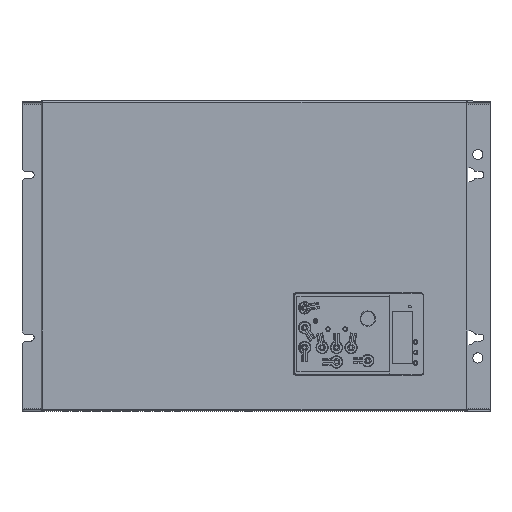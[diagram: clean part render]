
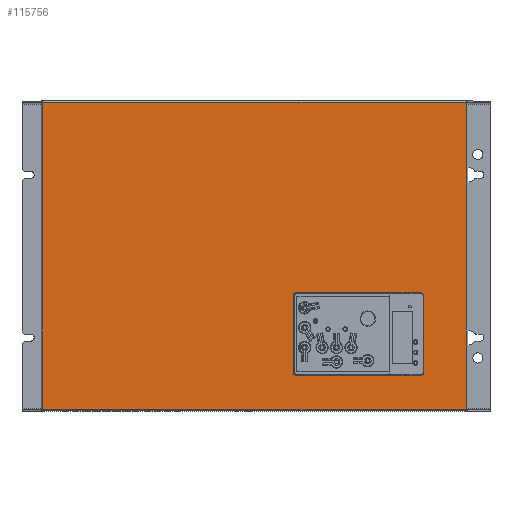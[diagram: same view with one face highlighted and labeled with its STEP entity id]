
A CAD part, top view. The second image highlights one B-rep face of the part: STEP entity #115756.
In plain terms, the highlighted planar face has unit normal (0, 0, 1).
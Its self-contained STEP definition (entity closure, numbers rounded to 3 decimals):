
#113492=DIRECTION('',(1.,0.,0.));
#113493=VECTOR('',#113492,301.6);
#113494=CARTESIAN_POINT('',(-150.8,208.,1.2));
#113495=LINE('',#113494,#113493);
#113507=CARTESIAN_POINT('',(-150.8,208.,1.2));
#113512=DIRECTION('',(-1.,0.,0.));
#113513=VECTOR('',#113512,76.);
#113514=CARTESIAN_POINT('',(115.,38.2,1.2));
#113515=LINE('',#113514,#113513);
#113519=DIRECTION('',(0.,-1.,0.));
#113520=VECTOR('',#113519,123.);
#113521=CARTESIAN_POINT('',(117.5,163.7,1.2));
#113522=LINE('',#113521,#113520);
#113526=DIRECTION('',(1.,0.,0.));
#113527=VECTOR('',#113526,76.);
#113528=CARTESIAN_POINT('',(39.,166.2,1.2));
#113529=LINE('',#113528,#113527);
#113533=DIRECTION('',(0.,1.,0.));
#113534=VECTOR('',#113533,123.);
#113535=CARTESIAN_POINT('',(36.5,40.7,1.2));
#113536=LINE('',#113535,#113534);
#113553=DIRECTION('',(-1.,0.,0.));
#113554=VECTOR('',#113553,301.6);
#113555=CARTESIAN_POINT('',(150.8,-208.,1.2));
#113556=LINE('',#113555,#113554);
#113964=DIRECTION('',(0.,-1.,0.));
#113965=VECTOR('',#113964,416.);
#113966=CARTESIAN_POINT('',(150.8,208.,1.2));
#113967=LINE('',#113966,#113965);
#114165=DIRECTION('',(0.,1.,0.));
#114166=VECTOR('',#114165,416.);
#114167=CARTESIAN_POINT('',(-150.8,-208.,1.2));
#114168=LINE('',#114167,#114166);
#114326=CARTESIAN_POINT('',(115.,40.7,1.2));
#114327=DIRECTION('',(0.,0.,-1.));
#114328=DIRECTION('',(1.,0.,0.));
#114329=AXIS2_PLACEMENT_3D('',#114326,#114327,#114328);
#114356=CARTESIAN_POINT('',(115.,163.7,1.2));
#114357=DIRECTION('',(0.,0.,-1.));
#114358=DIRECTION('',(0.,1.,0.));
#114359=AXIS2_PLACEMENT_3D('',#114356,#114357,#114358);
#114386=CARTESIAN_POINT('',(39.,163.7,1.2));
#114387=DIRECTION('',(0.,0.,-1.));
#114388=DIRECTION('',(-1.,0.,0.));
#114389=AXIS2_PLACEMENT_3D('',#114386,#114387,#114388);
#114416=CARTESIAN_POINT('',(39.,40.7,1.2));
#114417=DIRECTION('',(0.,0.,-1.));
#114418=DIRECTION('',(0.,-1.,0.));
#114419=AXIS2_PLACEMENT_3D('',#114416,#114417,#114418);
#114821=VERTEX_POINT('',#113507);
#114823=CARTESIAN_POINT('',(150.8,208.,1.2));
#114824=VERTEX_POINT('',#114823);
#114831=CARTESIAN_POINT('',(-150.8,-208.,1.2));
#114832=VERTEX_POINT('',#114831);
#114833=CARTESIAN_POINT('',(150.8,-208.,1.2));
#114834=VERTEX_POINT('',#114833);
#114928=CARTESIAN_POINT('',(117.5,163.7,1.2));
#114930=VERTEX_POINT('',#114928);
#114932=CARTESIAN_POINT('',(115.,166.2,1.2));
#114934=VERTEX_POINT('',#114932);
#114936=CARTESIAN_POINT('',(115.,38.2,1.2));
#114938=VERTEX_POINT('',#114936);
#114940=CARTESIAN_POINT('',(117.5,40.7,1.2));
#114942=VERTEX_POINT('',#114940);
#114944=CARTESIAN_POINT('',(36.5,40.7,1.2));
#114946=VERTEX_POINT('',#114944);
#114948=CARTESIAN_POINT('',(39.,38.2,1.2));
#114950=VERTEX_POINT('',#114948);
#114952=CARTESIAN_POINT('',(39.,166.2,1.2));
#114954=VERTEX_POINT('',#114952);
#114956=CARTESIAN_POINT('',(36.5,163.7,1.2));
#114958=VERTEX_POINT('',#114956);
#115724=CARTESIAN_POINT('',(0.,0.,1.2));
#115725=DIRECTION('',(0.,0.,1.));
#115726=DIRECTION('',(1.,0.,0.));
#115727=AXIS2_PLACEMENT_3D('',#115724,#115725,#115726);
#115728=PLANE('',#115727);
#115730=ORIENTED_EDGE('',*,*,#115729,.T.);
#115732=ORIENTED_EDGE('',*,*,#115731,.T.);
#115733=ORIENTED_EDGE('',*,*,#115718,.T.);
#115735=ORIENTED_EDGE('',*,*,#115734,.T.);
#115736=EDGE_LOOP('',(#115730,#115732,#115733,#115735));
#115737=FACE_OUTER_BOUND('',#115736,.F.);
#115739=ORIENTED_EDGE('',*,*,#115738,.F.);
#115741=ORIENTED_EDGE('',*,*,#115740,.F.);
#115743=ORIENTED_EDGE('',*,*,#115742,.F.);
#115745=ORIENTED_EDGE('',*,*,#115744,.F.);
#115747=ORIENTED_EDGE('',*,*,#115746,.F.);
#115749=ORIENTED_EDGE('',*,*,#115748,.F.);
#115751=ORIENTED_EDGE('',*,*,#115750,.F.);
#115753=ORIENTED_EDGE('',*,*,#115752,.F.);
#115754=EDGE_LOOP('',(#115739,#115741,#115743,#115745,#115747,#115749,#115751,
#115753));
#115755=FACE_BOUND('',#115754,.F.);
#115756=ADVANCED_FACE('',(#115737,#115755),#115728,.T.);
#114330=CIRCLE('',#114329,2.5);
#114360=CIRCLE('',#114359,2.5);
#114390=CIRCLE('',#114389,2.5);
#114420=CIRCLE('',#114419,2.5);
#115718=EDGE_CURVE('',#114821,#114824,#113495,.T.);
#115729=EDGE_CURVE('',#114834,#114832,#113556,.T.);
#115731=EDGE_CURVE('',#114832,#114821,#114168,.T.);
#115734=EDGE_CURVE('',#114824,#114834,#113967,.T.);
#115738=EDGE_CURVE('',#114938,#114950,#113515,.T.);
#115740=EDGE_CURVE('',#114942,#114938,#114330,.T.);
#115742=EDGE_CURVE('',#114930,#114942,#113522,.T.);
#115744=EDGE_CURVE('',#114934,#114930,#114360,.T.);
#115746=EDGE_CURVE('',#114954,#114934,#113529,.T.);
#115748=EDGE_CURVE('',#114958,#114954,#114390,.T.);
#115750=EDGE_CURVE('',#114946,#114958,#113536,.T.);
#115752=EDGE_CURVE('',#114950,#114946,#114420,.T.);
